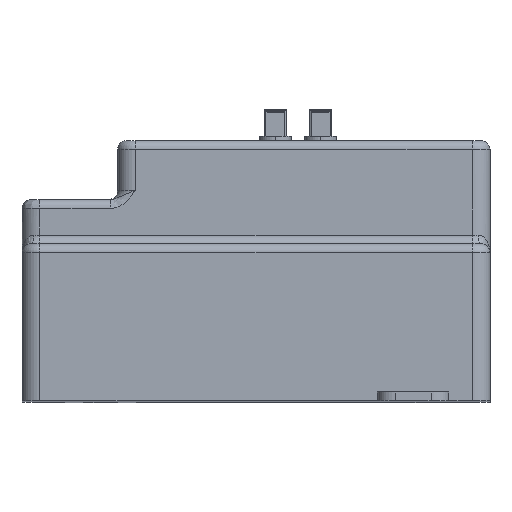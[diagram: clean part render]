
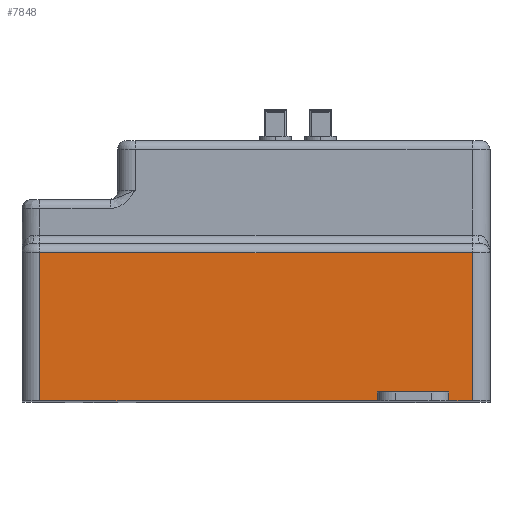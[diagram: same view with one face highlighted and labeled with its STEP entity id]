
A CAD part, top view. The second image highlights one B-rep face of the part: STEP entity #7848.
In plain terms, the highlighted planar face has unit normal (0, 0, 1).
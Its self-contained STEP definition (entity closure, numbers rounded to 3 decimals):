
#7848=ADVANCED_FACE('',(#14873),#10969,.F.);
#10969=PLANE('',#83033);
#14873=FACE_OUTER_BOUND('',#19295,.T.);
#19295=EDGE_LOOP('',(#40668,#40669,#40670,#40671,#40672,#40673,#40674,#40675,
#40676,#40677,#40678,#40679));
#40668=ORIENTED_EDGE('',*,*,#59455,.T.);
#40669=ORIENTED_EDGE('',*,*,#59603,.T.);
#40670=ORIENTED_EDGE('',*,*,#59604,.T.);
#40671=ORIENTED_EDGE('',*,*,#59605,.F.);
#40672=ORIENTED_EDGE('',*,*,#59449,.T.);
#40673=ORIENTED_EDGE('',*,*,#59606,.F.);
#40674=ORIENTED_EDGE('',*,*,#59607,.T.);
#40675=ORIENTED_EDGE('',*,*,#59608,.T.);
#40676=ORIENTED_EDGE('',*,*,#59469,.T.);
#40677=ORIENTED_EDGE('',*,*,#59609,.F.);
#40678=ORIENTED_EDGE('',*,*,#59610,.F.);
#40679=ORIENTED_EDGE('',*,*,#59602,.F.);
#48572=VERTEX_POINT('',#135995);
#48573=VERTEX_POINT('',#135996);
#48577=VERTEX_POINT('',#136005);
#48579=VERTEX_POINT('',#136008);
#48592=VERTEX_POINT('',#136034);
#48593=VERTEX_POINT('',#136036);
#48690=VERTEX_POINT('',#136518);
#48691=VERTEX_POINT('',#136522);
#48692=VERTEX_POINT('',#136524);
#48693=VERTEX_POINT('',#136527);
#48694=VERTEX_POINT('',#136529);
#48695=VERTEX_POINT('',#136532);
#59449=EDGE_CURVE('',#48572,#48573,#68381,.T.);
#59455=EDGE_CURVE('',#48579,#48577,#68383,.T.);
#59469=EDGE_CURVE('',#48593,#48592,#68391,.T.);
#59602=EDGE_CURVE('',#48579,#48690,#68473,.T.);
#59603=EDGE_CURVE('',#48577,#48691,#68474,.T.);
#59604=EDGE_CURVE('',#48691,#48692,#68475,.T.);
#59605=EDGE_CURVE('',#48572,#48692,#68476,.T.);
#59606=EDGE_CURVE('',#48693,#48573,#68477,.T.);
#59607=EDGE_CURVE('',#48693,#48694,#68478,.T.);
#59608=EDGE_CURVE('',#48694,#48593,#68479,.T.);
#59609=EDGE_CURVE('',#48695,#48592,#68480,.T.);
#59610=EDGE_CURVE('',#48690,#48695,#68481,.T.);
#68381=LINE('',#135994,#77212);
#68383=LINE('',#136007,#77214);
#68391=LINE('',#136035,#77222);
#68473=LINE('',#136519,#77304);
#68474=LINE('',#136521,#77305);
#68475=LINE('',#136523,#77306);
#68476=LINE('',#136525,#77307);
#68477=LINE('',#136526,#77308);
#68478=LINE('',#136528,#77309);
#68479=LINE('',#136530,#77310);
#68480=LINE('',#136531,#77311);
#68481=LINE('',#136533,#77312);
#77212=VECTOR('',#101963,1.);
#77214=VECTOR('',#101973,1.);
#77222=VECTOR('',#101993,1.);
#77304=VECTOR('',#102211,1.);
#77305=VECTOR('',#102214,1.);
#77306=VECTOR('',#102215,1.);
#77307=VECTOR('',#102216,1.);
#77308=VECTOR('',#102217,1.);
#77309=VECTOR('',#102218,1.);
#77310=VECTOR('',#102219,1.);
#77311=VECTOR('',#102220,1.);
#77312=VECTOR('',#102221,1.);
#83033=AXIS2_PLACEMENT_3D('',#136534,#102222,#102223);
#101963=DIRECTION('',(1.,0.,0.));
#101973=DIRECTION('',(1.,0.,0.));
#101993=DIRECTION('',(1.,0.,0.));
#102211=DIRECTION('',(0.,1.,0.));
#102214=DIRECTION('',(0.,1.,0.));
#102215=DIRECTION('',(1.,0.,0.));
#102216=DIRECTION('',(0.,1.,0.));
#102217=DIRECTION('',(0.,-1.,0.));
#102218=DIRECTION('',(1.,0.,0.));
#102219=DIRECTION('',(0.,-1.,0.));
#102220=DIRECTION('',(0.,-1.,0.));
#102221=DIRECTION('',(1.,0.,0.));
#102222=DIRECTION('',(0.,0.,-1.));
#102223=DIRECTION('',(1.,0.,0.));
#135994=CARTESIAN_POINT('',(147.815,150.642,457.238));
#135995=CARTESIAN_POINT('',(163.542,150.642,457.238));
#135996=CARTESIAN_POINT('',(167.289,150.642,457.238));
#136005=CARTESIAN_POINT('',(161.415,150.642,457.238));
#136007=CARTESIAN_POINT('',(147.815,150.642,457.238));
#136008=CARTESIAN_POINT('',(123.615,150.642,457.238));
#136034=CARTESIAN_POINT('',(172.015,150.642,457.238));
#136035=CARTESIAN_POINT('',(147.815,150.642,457.238));
#136036=CARTESIAN_POINT('',(169.415,150.642,457.238));
#136518=CARTESIAN_POINT('',(123.615,167.242,457.238));
#136519=CARTESIAN_POINT('',(123.615,150.642,457.238));
#136521=CARTESIAN_POINT('',(161.415,168.242,457.238));
#136522=CARTESIAN_POINT('',(161.415,151.642,457.238));
#136523=CARTESIAN_POINT('',(172.815,151.642,457.238));
#136524=CARTESIAN_POINT('',(163.542,151.642,457.238));
#136525=CARTESIAN_POINT('',(163.542,150.642,457.238));
#136526=CARTESIAN_POINT('',(167.289,150.642,457.238));
#136527=CARTESIAN_POINT('',(167.289,151.642,457.238));
#136528=CARTESIAN_POINT('',(172.815,151.642,457.238));
#136529=CARTESIAN_POINT('',(169.415,151.642,457.238));
#136530=CARTESIAN_POINT('',(169.415,168.242,457.238));
#136531=CARTESIAN_POINT('',(172.015,167.242,457.238));
#136532=CARTESIAN_POINT('',(172.015,167.242,457.238));
#136533=CARTESIAN_POINT('',(147.815,167.242,457.238));
#136534=CARTESIAN_POINT('',(172.815,168.242,457.238));
